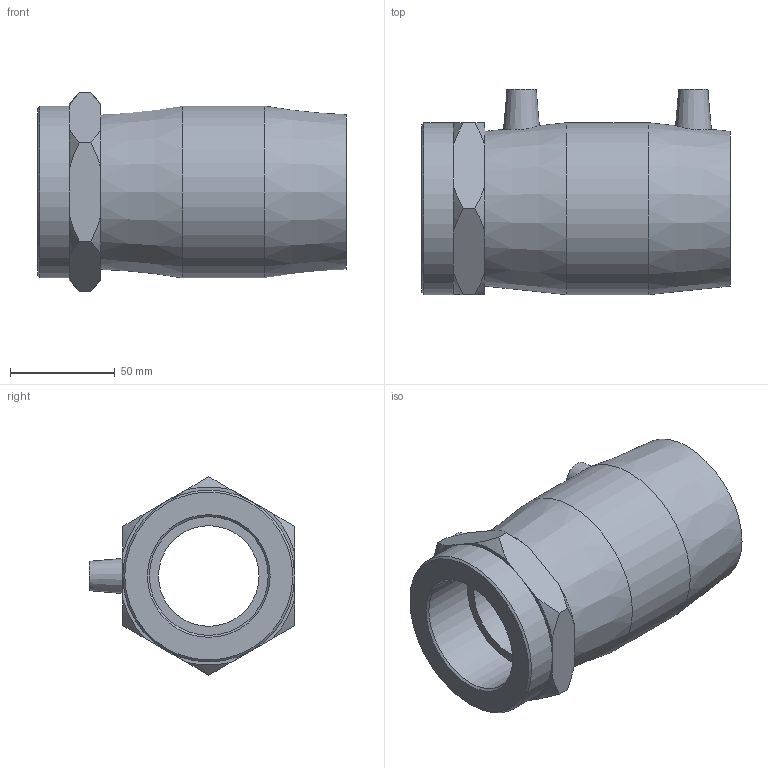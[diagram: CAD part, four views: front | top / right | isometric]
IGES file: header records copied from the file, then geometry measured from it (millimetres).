
Global section: file name: 493104063020.ipt; native system: Autodesk Inventor 2015; preprocessor: unknown; author: KIM; date: 20200202.122450; units: millimetre
Bounding box: 147 x 98 x 94.69 mm (x, y, z)
Volume: 387625.8 mm3; surface area: 73427 mm2
Topology: 1 solids, 1 shells, 54 faces, 130 edges, 86 vertices
Faces by surface type: plane 24, cone 17, revolution 9, cylinder 4
Full cylindrical faces by diameter (mm): 4 x2, 82 x2
